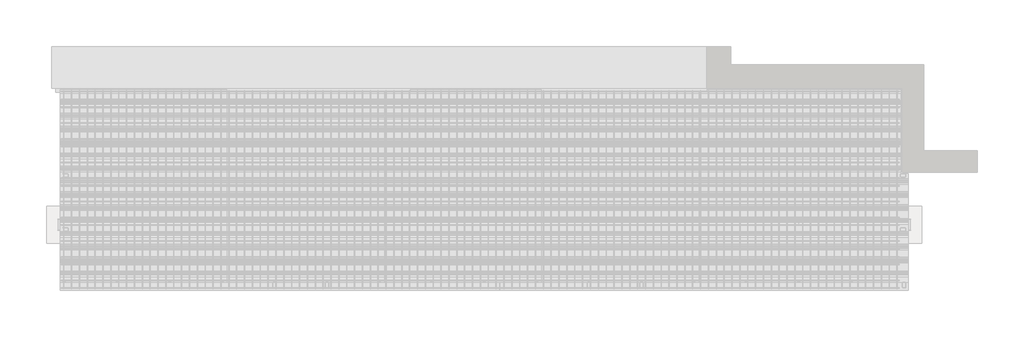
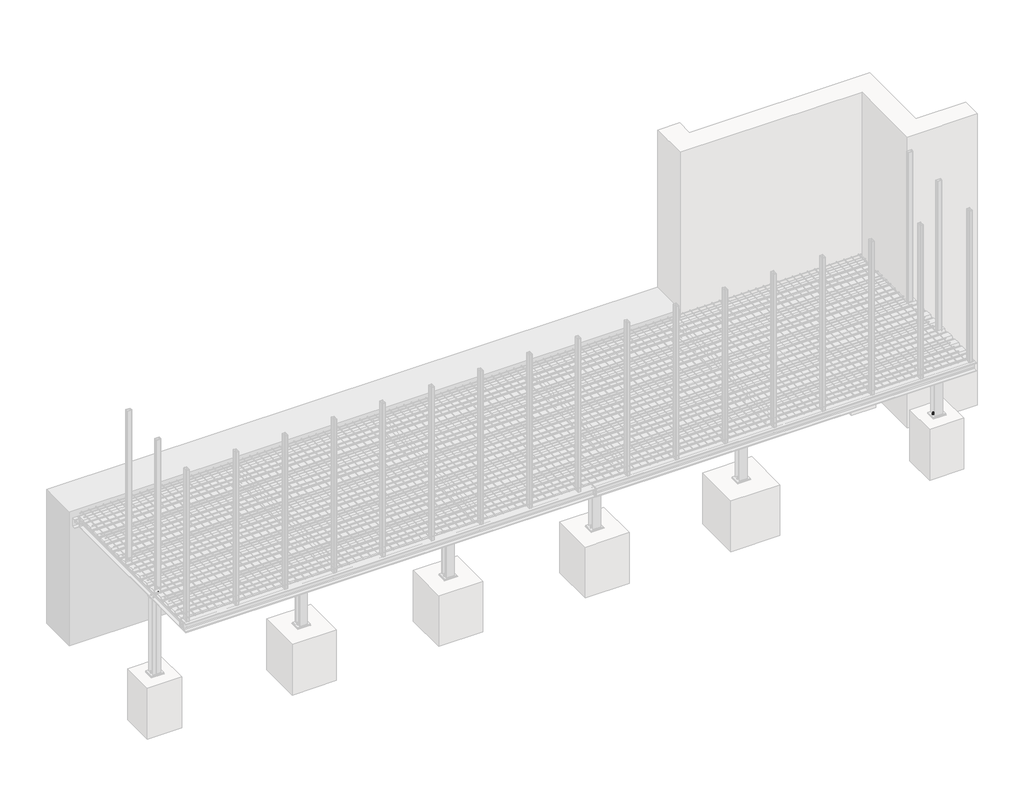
# One storey, part 19 of 36: 12 assemblies, 4 proxies.
"""IFC4 building model written with IfcOpenShell, lengths in millimetres."""

import ifcopenshell
import ifcopenshell.guid

model = None  # the IFC model being written
_history = None  # IfcOwnerHistory: only IFC2X3 demands one
_inside = {}  # id of a spatial element -> (the spatial element, [elements in it])
_under = {}  # id of a project, library or spatial element -> (it, [spatial elements below it])
_declared = {}  # id of a project -> (the project, [libraries it declares])
_typed = {}  # id of a type object -> (the type object, [elements of that type])
_made_of = {}  # id of a material, layer set ... -> (it, [elements and type objects made of it])


def new_model(schema):
    """Start an empty IFC model of exactly this schema.

    Asked for "IFC4X3", IfcOpenShell would pick the latest addendum, in which some entities
    have other attributes; the version numbers below select the first issue.
    IFC2X3 requires an IfcOwnerHistory on every rooted entity: one is made here for all.
    """
    global model, _history
    if schema == "IFC4X3":
        model = ifcopenshell.file(schema_version=(4, 3, 0, 0))
    else:
        model = ifcopenshell.file(schema=schema)
    _inside.clear()
    _under.clear()
    _declared.clear()
    _typed.clear()
    _made_of.clear()
    _history = None
    if model.schema == "IFC2X3":
        org = make("IfcOrganization", Name="unknown")
        user = make(
            "IfcPersonAndOrganization",
            ThePerson=make("IfcPerson", FamilyName="unknown"),
            TheOrganization=org,
        )
        app = make(
            "IfcApplication",
            ApplicationDeveloper=org,
            Version="unknown",
            ApplicationFullName="unknown",
            ApplicationIdentifier="unknown",
        )
        _history = make(
            "IfcOwnerHistory",
            OwningUser=user,
            OwningApplication=app,
            ChangeAction="ADDED",
            CreationDate=0,
        )
    return model


def make(cls, **values):
    """One entity of the class cls with the attributes given. An attribute that is None is left unset."""
    return model.create_entity(
        cls, **{name: value for name, value in values.items() if value is not None}
    )


def rooted(cls, **values):
    """An entity with a GlobalId (a new one), such as an element, a storey or a relation."""
    return make(cls, GlobalId=ifcopenshell.guid.new(), OwnerHistory=_history, **values)


def si_unit(unit_type, name, prefix=None):
    """IfcSIUnit, for example si_unit("LENGTHUNIT", "METRE", prefix="MILLI")."""
    return make("IfcSIUnit", UnitType=unit_type, Prefix=prefix, Name=name)


def assignment(units):
    """IfcUnitAssignment: the units of a project."""
    return None if units is None else make("IfcUnitAssignment", Units=units)


def point(xyz):
    """IfcCartesianPoint."""
    return None if xyz is None else make("IfcCartesianPoint", Coordinates=xyz)


def direction(xyz):
    """IfcDirection."""
    return None if xyz is None else make("IfcDirection", DirectionRatios=xyz)


def frame(location, z_axis=None, x_axis=None):
    """IfcAxis2Placement3D, a coordinate frame: its origin and axes. An axis left out is left unset."""
    return make(
        "IfcAxis2Placement3D",
        Location=point(location),
        Axis=direction(z_axis),
        RefDirection=direction(x_axis),
    )


def frame_2d(location, x_axis=None):
    """IfcAxis2Placement2D, a coordinate frame in the plane: its origin and x axis."""
    return make(
        "IfcAxis2Placement2D", Location=point(location), RefDirection=direction(x_axis)
    )


def origin():
    """The frame at (0, 0, 0) with its axes left unset."""
    return frame((0.0, 0.0, 0.0))


def place(relative_to, where):
    """IfcLocalPlacement: puts the frame where relative to a parent placement (None: the world)."""
    return make(
        "IfcLocalPlacement", PlacementRelTo=relative_to, RelativePlacement=where
    )


def context(
    kind, dimensions, precision=None, world=None, true_north=None, identifier=None
):
    """IfcGeometricRepresentationContext, for example the 3D "Model" context."""
    return make(
        "IfcGeometricRepresentationContext",
        ContextIdentifier=identifier,
        ContextType=kind,
        CoordinateSpaceDimension=dimensions,
        Precision=precision,
        WorldCoordinateSystem=world,
        TrueNorth=true_north,
    )


def project(units=None, contexts=None):
    """IfcProject with its units and contexts."""
    return rooted(
        "IfcProject",
        Name="project",
        RepresentationContexts=contexts,
        UnitsInContext=assignment(units),
    )


def spatial(cls, under=None, at=None, **own):
    """A site, building, storey or space (cls), placed at a placement, below another one or the project."""
    s = rooted(cls, ObjectPlacement=at, **own)
    if under is not None:
        _under.setdefault(under.id(), (under, []))[1].append(s)
    return s


def polyline(points):
    """IfcPolyline through the points."""
    return make("IfcPolyline", Points=[point(p) for p in points])


def circle_curve(where, radius):
    """IfcCircle in the frame where."""
    return make("IfcCircle", Position=where, Radius=radius)


def trimmed(basis, trim1, trim2, sense, master):
    """IfcTrimmedCurve: the piece of a basis curve between two trims."""
    return make(
        "IfcTrimmedCurve",
        BasisCurve=basis,
        Trim1=trim1,
        Trim2=trim2,
        SenseAgreement=sense,
        MasterRepresentation=master,
    )


def segment(curve, same_sense, transition):
    """IfcCompositeCurveSegment."""
    return make(
        "IfcCompositeCurveSegment",
        Transition=transition,
        SameSense=same_sense,
        ParentCurve=curve,
    )


def composite_curve(segments, self_intersect=None):
    """IfcCompositeCurve: segments joined end to end."""
    return make("IfcCompositeCurve", Segments=segments, SelfIntersect=self_intersect)


def outline(outer, holes=None, kind="AREA"):
    """IfcArbitraryClosedProfileDef: a profile drawn as a closed curve; with holes, ...WithVoids."""
    if holes is None:
        return make("IfcArbitraryClosedProfileDef", ProfileType=kind, OuterCurve=outer)
    return make(
        "IfcArbitraryProfileDefWithVoids",
        ProfileType=kind,
        OuterCurve=outer,
        InnerCurves=holes,
    )


def extrude(swept, where, along, depth):
    """IfcExtrudedAreaSolid: the profile swept, set in the frame where, extruded along a direction by depth."""
    return make(
        "IfcExtrudedAreaSolid",
        SweptArea=swept,
        Position=where,
        ExtrudedDirection=direction(along),
        Depth=depth,
    )


def faces_of(points, faces, orient=None, outer=None):
    """IfcFace entities. A face is a list of loops; a loop is a list of indices into points, from 0.

    orient and outer hold one flag for each loop. By default every Orientation is true, the
    first loop of a face is its IfcFaceOuterBound and the others are IfcFaceBound.
    """
    made = []
    for i, loops in enumerate(faces):
        bounds = []
        for j, loop in enumerate(loops):
            is_outer = j == 0 if outer is None else outer[i][j]
            bounds.append(
                make(
                    "IfcFaceOuterBound" if is_outer else "IfcFaceBound",
                    Bound=make("IfcPolyLoop", Polygon=[points[k] for k in loop]),
                    Orientation=True if orient is None else orient[i][j],
                )
            )
        made.append(make("IfcFace", Bounds=bounds))
    return made


def faceted_brep(points, faces, orient=None, outer=None, voids=None):
    """IfcFacetedBrep: a solid bounded by flat faces; with voids (closed shells), ...WithVoids."""
    shared = [point(p) for p in points]
    hull = make("IfcClosedShell", CfsFaces=faces_of(shared, faces, orient, outer))
    if voids is None:
        return make("IfcFacetedBrep", Outer=hull)
    return make(
        "IfcFacetedBrepWithVoids",
        Outer=hull,
        Voids=[
            make(cls, CfsFaces=faces_of(shared, fs, o, b)) for cls, fs, o, b in voids
        ],
    )


def shape(context_of_items, identifier, shape_type, items):
    """IfcShapeRepresentation: the items that make up one representation, for example the "Body"."""
    return make(
        "IfcShapeRepresentation",
        ContextOfItems=context_of_items,
        RepresentationIdentifier=identifier,
        RepresentationType=shape_type,
        Items=items,
    )


def made_of(thing, what):
    """Note that an element or type object is made of a material, layer set ...; save() writes the relation."""
    if what is not None:
        _made_of.setdefault(what.id(), (what, []))[1].append(thing)
    return thing


def element(
    cls,
    number,
    at=None,
    inside=None,
    cuts=None,
    type_object=None,
    material=None,
    context=None,
    identifier="Body",
    shape_type=None,
    held_by="IfcProductDefinitionShape",
    body=None,
    shapes=None,
    **own,
):
    """One element of the class cls, such as IfcWall. Its Tag is "e" and its number.

    at: its placement. inside: the storey or other place that contains it. cuts: it is an
    opening in that element (IfcRelVoidsElement). A single representation is given by context,
    identifier, shape_type and body (its items); several are given by shapes. held_by: the class
    of the entity that holds the representations. save() writes the other relations.
    """
    e = rooted(cls, Tag="e%d" % number, ObjectPlacement=at, **own)
    if body is not None:
        shapes = [shape(context, identifier, shape_type, body)]
    if shapes is not None:
        e.Representation = make(held_by, Representations=shapes)
    if inside is not None:
        _inside.setdefault(inside.id(), (inside, []))[1].append(e)
    if cuts is not None:
        rooted(
            "IfcRelVoidsElement", RelatingBuildingElement=cuts, RelatedOpeningElement=e
        )
    if type_object is not None:
        _typed.setdefault(type_object.id(), (type_object, []))[1].append(e)
    return made_of(e, material)


def aggregate(whole, parts):
    """IfcRelAggregates: a whole, such as a stair, and the parts it consists of."""
    return rooted("IfcRelAggregates", RelatingObject=whole, RelatedObjects=parts)


def save(model, path):
    """Write the relations noted so far, then the file.

    IfcRelAggregates (storeys below a building ...), IfcRelContainedInSpatialStructure (elements
    in a storey), IfcRelDefinesByType, IfcRelAssociatesMaterial and IfcRelDeclares: one each for
    every whole, place, type object, material and project.
    """
    for whole, parts in _under.values():
        aggregate(whole, parts)
    for where, things in _inside.values():
        rooted(
            "IfcRelContainedInSpatialStructure",
            RelatedElements=things,
            RelatingStructure=where,
        )
    for kind, things in _typed.values():
        rooted("IfcRelDefinesByType", RelatedObjects=things, RelatingType=kind)
    for what, things in _made_of.values():
        rooted("IfcRelAssociatesMaterial", RelatedObjects=things, RelatingMaterial=what)
    for by, libraries in _declared.values():
        rooted("IfcRelDeclares", RelatingContext=by, RelatedDefinitions=libraries)
    model.write(path)


model = new_model("IFC4")

# Units and contexts
model_context = context("Model", 3, world=origin())
ifc_project = project(units=[si_unit("LENGTHUNIT", "METRE", prefix="MILLI")], contexts=[model_context])

# Site, building, storey
site = spatial("IfcSite", under=ifc_project)
building = spatial("IfcBuilding", under=site)
storey = spatial("IfcBuildingStorey", under=building, Name="Základy", Elevation=-1200.0)

# Proxies
placement = place(None, origin())
element("IfcBuildingElementProxy", 1, Name="PLECH", ObjectType="PLECH", at=placement, inside=storey, context=model_context, shape_type="SweptSolid", body=[
    extrude(outline(polyline([(16140.0, 1346.0), (16140.0, 1174.0), (15960.0, 1174.0), (15960.0, 1346.0), (16140.0, 1346.0)])), frame((0.0, 0.0, -350.0), z_axis=(0.0, 0.0, 1.0), x_axis=(1.0, 0.0, 0.0)), (0.0, 0.0, 1.0), 10.0),
])
element("IfcBuildingElementProxy", 2, Name="PLECH", ObjectType="PLECH", at=placement, inside=storey, context=model_context, shape_type="SweptSolid", body=[
    extrude(outline(composite_curve([segment(polyline([(-174.0, 15960.0), (-326.0, 15960.0), (-326.0, 16020.5)]), True, "CONTINUOUS"), segment(trimmed(circle_curve(frame_2d((-326.0, 16045.5)), 25.0), [point((-326.0, 16020.5))], [point((-301.0, 16045.5))], True, "CARTESIAN"), True, "CONTINUOUS"), segment(polyline([(-301.0, 16045.5), (-199.0, 16045.5)]), True, "CONTINUOUS"), segment(trimmed(circle_curve(frame_2d((-174.0, 16045.5)), 25.0), [point((-199.0, 16045.5))], [point((-174.0, 16020.5))], True, "CARTESIAN"), True, "CONTINUOUS"), segment(polyline([(-174.0, 16020.5), (-174.0, 15960.0)]), True, "CONTINUOUS")], self_intersect=False)), frame((0.0, 1256.0, 0.0), z_axis=(0.0, 1.0, 0.0), x_axis=(0.0, 0.0, 1.0)), (0.0, 0.0, 1.0), 8.0),
])
element("IfcBuildingElementProxy", 3, Name="Bolt assembly", ObjectType="Bolt assembly", at=placement, inside=storey, context=model_context, shape_type="SweptSolid", body=[
    extrude(outline(polyline([(15982.7364934, 1260.0), (15978.8682467, 1253.3000002), (15971.1317533, 1253.3000002), (15967.2635066, 1260.0), (15971.1317533, 1266.6999998), (15978.8682467, 1266.6999998), (15982.7364934, 1260.0)])), frame((0.0, 0.0, -2122.0), z_axis=(0.0, 0.0, 1.0), x_axis=(1.0, 0.0, 0.0)), (0.0, 0.0, 1.0), 132.0),
    extrude(outline(composite_curve([segment(trimmed(circle_curve(frame_2d((15975.0, 1260.0)), 8.0), [point((15983.0, 1260.0))], [point((15967.0, 1260.0))], False, "CARTESIAN"), True, "CONTINUOUS"), segment(trimmed(circle_curve(frame_2d((15975.0, 1260.0)), 8.0), [point((15967.0, 1260.0))], [point((15983.0, 1260.0))], False, "CARTESIAN"), True, "CONTINUOUS")], self_intersect=False)), frame((0.0, 0.0, -1990.0), z_axis=(0.0, 0.0, 1.0), x_axis=(1.0, 0.0, 0.0)), (0.0, 0.0, 1.0), 58.0),
    extrude(outline(composite_curve([segment(trimmed(circle_curve(frame_2d((15975.0, 1260.0)), 15.0), [point((15990.0, 1260.0))], [point((15960.0, 1260.0))], False, "CARTESIAN"), True, "CONTINUOUS"), segment(trimmed(circle_curve(frame_2d((15975.0, 1260.0)), 15.0), [point((15960.0, 1260.0))], [point((15990.0, 1260.0))], False, "CARTESIAN"), True, "CONTINUOUS")], self_intersect=False)), frame((0.0, 0.0, -1975.0), z_axis=(0.0, 0.0, 1.0), x_axis=(1.0, 0.0, 0.0)), (0.0, 0.0, 1.0), 3.0),
    extrude(outline(polyline([(15990.4441197, 1260.0), (15982.7220599, 1246.625), (15967.2779401, 1246.625), (15959.5558803, 1260.0), (15967.2779401, 1273.375), (15982.7220599, 1273.375), (15990.4441197, 1260.0)])), frame((0.0, 0.0, -1972.0), z_axis=(0.0, 0.0, 1.0), x_axis=(1.0, 0.0, 0.0)), (0.0, 0.0, 1.0), 13.0),
    extrude(outline(composite_curve([segment(trimmed(circle_curve(frame_2d((15975.0, 1260.0)), 9.0), [point((15984.0, 1260.0))], [point((15966.0, 1260.0))], False, "CARTESIAN"), True, "CONTINUOUS"), segment(trimmed(circle_curve(frame_2d((15975.0, 1260.0)), 9.0), [point((15966.0, 1260.0))], [point((15984.0, 1260.0))], False, "CARTESIAN"), True, "CONTINUOUS")], self_intersect=False)), frame((0.0, 0.0, -1990.0), z_axis=(0.0, 0.0, 1.0), x_axis=(1.0, 0.0, 0.0)), (0.0, 0.0, 1.0), 15.1),
    extrude(outline(polyline([(16132.7364934, 1260.0), (16128.8682467, 1253.3000002), (16121.1317533, 1253.3000002), (16117.2635066, 1260.0), (16121.1317533, 1266.6999998), (16128.8682467, 1266.6999998), (16132.7364934, 1260.0)])), frame((0.0, 0.0, -2122.0), z_axis=(0.0, 0.0, 1.0), x_axis=(1.0, 0.0, 0.0)), (0.0, 0.0, 1.0), 132.0),
    extrude(outline(composite_curve([segment(trimmed(circle_curve(frame_2d((16125.0, 1260.0)), 8.0), [point((16133.0, 1260.0))], [point((16117.0, 1260.0))], False, "CARTESIAN"), True, "CONTINUOUS"), segment(trimmed(circle_curve(frame_2d((16125.0, 1260.0)), 8.0), [point((16117.0, 1260.0))], [point((16133.0, 1260.0))], False, "CARTESIAN"), True, "CONTINUOUS")], self_intersect=False)), frame((0.0, 0.0, -1990.0), z_axis=(0.0, 0.0, 1.0), x_axis=(1.0, 0.0, 0.0)), (0.0, 0.0, 1.0), 58.0),
    extrude(outline(composite_curve([segment(trimmed(circle_curve(frame_2d((16125.0, 1260.0)), 15.0), [point((16140.0, 1260.0))], [point((16110.0, 1260.0))], False, "CARTESIAN"), True, "CONTINUOUS"), segment(trimmed(circle_curve(frame_2d((16125.0, 1260.0)), 15.0), [point((16110.0, 1260.0))], [point((16140.0, 1260.0))], False, "CARTESIAN"), True, "CONTINUOUS")], self_intersect=False)), frame((0.0, 0.0, -1975.0), z_axis=(0.0, 0.0, 1.0), x_axis=(1.0, 0.0, 0.0)), (0.0, 0.0, 1.0), 3.0),
    extrude(outline(polyline([(16140.4441197, 1260.0), (16132.7220599, 1246.625), (16117.2779401, 1246.625), (16109.5558803, 1260.0), (16117.2779401, 1273.375), (16132.7220599, 1273.375), (16140.4441197, 1260.0)])), frame((0.0, 0.0, -1972.0), z_axis=(0.0, 0.0, 1.0), x_axis=(1.0, 0.0, 0.0)), (0.0, 0.0, 1.0), 13.0),
    extrude(outline(composite_curve([segment(trimmed(circle_curve(frame_2d((16125.0, 1260.0)), 9.0), [point((16134.0, 1260.0))], [point((16116.0, 1260.0))], False, "CARTESIAN"), True, "CONTINUOUS"), segment(trimmed(circle_curve(frame_2d((16125.0, 1260.0)), 9.0), [point((16116.0, 1260.0))], [point((16134.0, 1260.0))], False, "CARTESIAN"), True, "CONTINUOUS")], self_intersect=False)), frame((0.0, 0.0, -1990.0), z_axis=(0.0, 0.0, 1.0), x_axis=(1.0, 0.0, 0.0)), (0.0, 0.0, 1.0), 15.1),
])
element("IfcBuildingElementProxy", 4, Name="Bolt assembly", ObjectType="Bolt assembly", at=placement, inside=storey, context=model_context, shape_type="SweptSolid", body=[
    extrude(outline(composite_curve([segment(trimmed(circle_curve(frame_2d((16000.0, 1220.0)), 6.5), [point((16006.5, 1220.0))], [point((15993.5, 1220.0))], False, "CARTESIAN"), True, "CONTINUOUS"), segment(trimmed(circle_curve(frame_2d((16000.0, 1220.0)), 6.5), [point((15993.5, 1220.0))], [point((16006.5, 1220.0))], False, "CARTESIAN"), True, "CONTINUOUS")], self_intersect=False)), frame((0.0, 0.0, -350.0), z_axis=(0.0, 0.0, 1.0), x_axis=(1.0, 0.0, 0.0)), (0.0, 0.0, 1.0), 10.1),
    extrude(outline(polyline([(16010.3923048, 1220.0), (16005.1961524, 1211.0), (15994.8038476, 1211.0), (15989.6076952, 1220.0), (15994.8038476, 1229.0), (16005.1961524, 1229.0), (16010.3923048, 1220.0)])), frame((0.0, 0.0, -323.5), z_axis=(0.0, 0.0, 1.0), x_axis=(1.0, 0.0, 0.0)), (0.0, 0.0, 1.0), 7.5),
    extrude(outline(composite_curve([segment(trimmed(circle_curve(frame_2d((16000.0, 1220.0)), 6.0), [point((16006.0, 1220.0))], [point((15994.0, 1220.0))], False, "CARTESIAN"), True, "CONTINUOUS"), segment(trimmed(circle_curve(frame_2d((16000.0, 1220.0)), 6.0), [point((15994.0, 1220.0))], [point((16006.0, 1220.0))], False, "CARTESIAN"), True, "CONTINUOUS")], self_intersect=False)), frame((0.0, 0.0, -368.5), z_axis=(0.0, 0.0, 1.0), x_axis=(1.0, 0.0, 0.0)), (0.0, 0.0, 1.0), 45.0),
    extrude(outline(composite_curve([segment(trimmed(circle_curve(frame_2d((16000.0, 1220.0)), 12.0), [point((16012.0, 1220.0))], [point((15988.0, 1220.0))], False, "CARTESIAN"), True, "CONTINUOUS"), segment(trimmed(circle_curve(frame_2d((16000.0, 1220.0)), 12.0), [point((15988.0, 1220.0))], [point((16012.0, 1220.0))], False, "CARTESIAN"), True, "CONTINUOUS")], self_intersect=False)), frame((0.0, 0.0, -326.0), z_axis=(0.0, 0.0, 1.0), x_axis=(1.0, 0.0, 0.0)), (0.0, 0.0, 1.0), 2.5),
    extrude(outline(composite_curve([segment(trimmed(circle_curve(frame_2d((16000.0, 1220.0)), 12.0), [point((16012.0, 1220.0))], [point((15988.0, 1220.0))], False, "CARTESIAN"), True, "CONTINUOUS"), segment(trimmed(circle_curve(frame_2d((16000.0, 1220.0)), 12.0), [point((15988.0, 1220.0))], [point((16012.0, 1220.0))], False, "CARTESIAN"), True, "CONTINUOUS")], self_intersect=False)), frame((0.0, 0.0, -352.5), z_axis=(0.0, 0.0, 1.0), x_axis=(1.0, 0.0, 0.0)), (0.0, 0.0, 1.0), 2.5),
    extrude(outline(polyline([(16010.9696551, 1220.0), (16005.4848276, 1210.5), (15994.5151724, 1210.5), (15989.0303449, 1220.0), (15994.5151724, 1229.5), (16005.4848276, 1229.5), (16010.9696551, 1220.0)])), frame((0.0, 0.0, -362.5), z_axis=(0.0, 0.0, 1.0), x_axis=(1.0, 0.0, 0.0)), (0.0, 0.0, 1.0), 10.0),
    extrude(outline(composite_curve([segment(trimmed(circle_curve(frame_2d((16000.0, 1220.0)), 6.5), [point((16006.5, 1220.0))], [point((15993.5, 1220.0))], False, "CARTESIAN"), True, "CONTINUOUS"), segment(trimmed(circle_curve(frame_2d((16000.0, 1220.0)), 6.5), [point((15993.5, 1220.0))], [point((16006.5, 1220.0))], False, "CARTESIAN"), True, "CONTINUOUS")], self_intersect=False)), frame((0.0, 0.0, -340.1), z_axis=(0.0, 0.0, 1.0), x_axis=(1.0, 0.0, 0.0)), (0.0, 0.0, 1.0), 14.0),
    extrude(outline(composite_curve([segment(trimmed(circle_curve(frame_2d((16100.0, 1220.0)), 6.5), [point((16106.5, 1220.0))], [point((16093.5, 1220.0))], False, "CARTESIAN"), True, "CONTINUOUS"), segment(trimmed(circle_curve(frame_2d((16100.0, 1220.0)), 6.5), [point((16093.5, 1220.0))], [point((16106.5, 1220.0))], False, "CARTESIAN"), True, "CONTINUOUS")], self_intersect=False)), frame((0.0, 0.0, -350.0), z_axis=(0.0, 0.0, 1.0), x_axis=(1.0, 0.0, 0.0)), (0.0, 0.0, 1.0), 10.1),
    extrude(outline(polyline([(16110.3923048, 1220.0), (16105.1961524, 1211.0), (16094.8038476, 1211.0), (16089.6076952, 1220.0), (16094.8038476, 1229.0), (16105.1961524, 1229.0), (16110.3923048, 1220.0)])), frame((0.0, 0.0, -323.5), z_axis=(0.0, 0.0, 1.0), x_axis=(1.0, 0.0, 0.0)), (0.0, 0.0, 1.0), 7.5),
    extrude(outline(composite_curve([segment(trimmed(circle_curve(frame_2d((16100.0, 1220.0)), 6.0), [point((16106.0, 1220.0))], [point((16094.0, 1220.0))], False, "CARTESIAN"), True, "CONTINUOUS"), segment(trimmed(circle_curve(frame_2d((16100.0, 1220.0)), 6.0), [point((16094.0, 1220.0))], [point((16106.0, 1220.0))], False, "CARTESIAN"), True, "CONTINUOUS")], self_intersect=False)), frame((0.0, 0.0, -368.5), z_axis=(0.0, 0.0, 1.0), x_axis=(1.0, 0.0, 0.0)), (0.0, 0.0, 1.0), 45.0),
    extrude(outline(composite_curve([segment(trimmed(circle_curve(frame_2d((16100.0, 1220.0)), 12.0), [point((16112.0, 1220.0))], [point((16088.0, 1220.0))], False, "CARTESIAN"), True, "CONTINUOUS"), segment(trimmed(circle_curve(frame_2d((16100.0, 1220.0)), 12.0), [point((16088.0, 1220.0))], [point((16112.0, 1220.0))], False, "CARTESIAN"), True, "CONTINUOUS")], self_intersect=False)), frame((0.0, 0.0, -326.0), z_axis=(0.0, 0.0, 1.0), x_axis=(1.0, 0.0, 0.0)), (0.0, 0.0, 1.0), 2.5),
    extrude(outline(composite_curve([segment(trimmed(circle_curve(frame_2d((16100.0, 1220.0)), 12.0), [point((16112.0, 1220.0))], [point((16088.0, 1220.0))], False, "CARTESIAN"), True, "CONTINUOUS"), segment(trimmed(circle_curve(frame_2d((16100.0, 1220.0)), 12.0), [point((16088.0, 1220.0))], [point((16112.0, 1220.0))], False, "CARTESIAN"), True, "CONTINUOUS")], self_intersect=False)), frame((0.0, 0.0, -352.5), z_axis=(0.0, 0.0, 1.0), x_axis=(1.0, 0.0, 0.0)), (0.0, 0.0, 1.0), 2.5),
    extrude(outline(polyline([(16110.9696551, 1220.0), (16105.4848276, 1210.5), (16094.5151724, 1210.5), (16089.0303449, 1220.0), (16094.5151724, 1229.5), (16105.4848276, 1229.5), (16110.9696551, 1220.0)])), frame((0.0, 0.0, -362.5), z_axis=(0.0, 0.0, 1.0), x_axis=(1.0, 0.0, 0.0)), (0.0, 0.0, 1.0), 10.0),
    extrude(outline(composite_curve([segment(trimmed(circle_curve(frame_2d((16100.0, 1220.0)), 6.5), [point((16106.5, 1220.0))], [point((16093.5, 1220.0))], False, "CARTESIAN"), True, "CONTINUOUS"), segment(trimmed(circle_curve(frame_2d((16100.0, 1220.0)), 6.5), [point((16093.5, 1220.0))], [point((16106.5, 1220.0))], False, "CARTESIAN"), True, "CONTINUOUS")], self_intersect=False)), frame((0.0, 0.0, -340.1), z_axis=(0.0, 0.0, 1.0), x_axis=(1.0, 0.0, 0.0)), (0.0, 0.0, 1.0), 14.0),
    extrude(outline(composite_curve([segment(trimmed(circle_curve(frame_2d((16000.0, 1300.0)), 6.5), [point((16006.5, 1300.0))], [point((15993.5, 1300.0))], False, "CARTESIAN"), True, "CONTINUOUS"), segment(trimmed(circle_curve(frame_2d((16000.0, 1300.0)), 6.5), [point((15993.5, 1300.0))], [point((16006.5, 1300.0))], False, "CARTESIAN"), True, "CONTINUOUS")], self_intersect=False)), frame((0.0, 0.0, -350.0), z_axis=(0.0, 0.0, 1.0), x_axis=(1.0, 0.0, 0.0)), (0.0, 0.0, 1.0), 10.1),
    extrude(outline(polyline([(16010.3923048, 1300.0), (16005.1961524, 1291.0), (15994.8038476, 1291.0), (15989.6076952, 1300.0), (15994.8038476, 1309.0), (16005.1961524, 1309.0), (16010.3923048, 1300.0)])), frame((0.0, 0.0, -323.5), z_axis=(0.0, 0.0, 1.0), x_axis=(1.0, 0.0, 0.0)), (0.0, 0.0, 1.0), 7.5),
    extrude(outline(composite_curve([segment(trimmed(circle_curve(frame_2d((16000.0, 1300.0)), 6.0), [point((16006.0, 1300.0))], [point((15994.0, 1300.0))], False, "CARTESIAN"), True, "CONTINUOUS"), segment(trimmed(circle_curve(frame_2d((16000.0, 1300.0)), 6.0), [point((15994.0, 1300.0))], [point((16006.0, 1300.0))], False, "CARTESIAN"), True, "CONTINUOUS")], self_intersect=False)), frame((0.0, 0.0, -368.5), z_axis=(0.0, 0.0, 1.0), x_axis=(1.0, 0.0, 0.0)), (0.0, 0.0, 1.0), 45.0),
    extrude(outline(composite_curve([segment(trimmed(circle_curve(frame_2d((16000.0, 1300.0)), 12.0), [point((16012.0, 1300.0))], [point((15988.0, 1300.0))], False, "CARTESIAN"), True, "CONTINUOUS"), segment(trimmed(circle_curve(frame_2d((16000.0, 1300.0)), 12.0), [point((15988.0, 1300.0))], [point((16012.0, 1300.0))], False, "CARTESIAN"), True, "CONTINUOUS")], self_intersect=False)), frame((0.0, 0.0, -326.0), z_axis=(0.0, 0.0, 1.0), x_axis=(1.0, 0.0, 0.0)), (0.0, 0.0, 1.0), 2.5),
    extrude(outline(composite_curve([segment(trimmed(circle_curve(frame_2d((16000.0, 1300.0)), 12.0), [point((16012.0, 1300.0))], [point((15988.0, 1300.0))], False, "CARTESIAN"), True, "CONTINUOUS"), segment(trimmed(circle_curve(frame_2d((16000.0, 1300.0)), 12.0), [point((15988.0, 1300.0))], [point((16012.0, 1300.0))], False, "CARTESIAN"), True, "CONTINUOUS")], self_intersect=False)), frame((0.0, 0.0, -352.5), z_axis=(0.0, 0.0, 1.0), x_axis=(1.0, 0.0, 0.0)), (0.0, 0.0, 1.0), 2.5),
    extrude(outline(polyline([(16010.9696551, 1300.0), (16005.4848276, 1290.5), (15994.5151724, 1290.5), (15989.0303449, 1300.0), (15994.5151724, 1309.5), (16005.4848276, 1309.5), (16010.9696551, 1300.0)])), frame((0.0, 0.0, -362.5), z_axis=(0.0, 0.0, 1.0), x_axis=(1.0, 0.0, 0.0)), (0.0, 0.0, 1.0), 10.0),
    extrude(outline(composite_curve([segment(trimmed(circle_curve(frame_2d((16000.0, 1300.0)), 6.5), [point((16006.5, 1300.0))], [point((15993.5, 1300.0))], False, "CARTESIAN"), True, "CONTINUOUS"), segment(trimmed(circle_curve(frame_2d((16000.0, 1300.0)), 6.5), [point((15993.5, 1300.0))], [point((16006.5, 1300.0))], False, "CARTESIAN"), True, "CONTINUOUS")], self_intersect=False)), frame((0.0, 0.0, -340.1), z_axis=(0.0, 0.0, 1.0), x_axis=(1.0, 0.0, 0.0)), (0.0, 0.0, 1.0), 14.0),
    extrude(outline(composite_curve([segment(trimmed(circle_curve(frame_2d((16100.0, 1300.0)), 6.5), [point((16106.5, 1300.0))], [point((16093.5, 1300.0))], False, "CARTESIAN"), True, "CONTINUOUS"), segment(trimmed(circle_curve(frame_2d((16100.0, 1300.0)), 6.5), [point((16093.5, 1300.0))], [point((16106.5, 1300.0))], False, "CARTESIAN"), True, "CONTINUOUS")], self_intersect=False)), frame((0.0, 0.0, -350.0), z_axis=(0.0, 0.0, 1.0), x_axis=(1.0, 0.0, 0.0)), (0.0, 0.0, 1.0), 10.1),
    extrude(outline(polyline([(16110.3923048, 1300.0), (16105.1961524, 1291.0), (16094.8038476, 1291.0), (16089.6076952, 1300.0), (16094.8038476, 1309.0), (16105.1961524, 1309.0), (16110.3923048, 1300.0)])), frame((0.0, 0.0, -323.5), z_axis=(0.0, 0.0, 1.0), x_axis=(1.0, 0.0, 0.0)), (0.0, 0.0, 1.0), 7.5),
    extrude(outline(composite_curve([segment(trimmed(circle_curve(frame_2d((16100.0, 1300.0)), 6.0), [point((16106.0, 1300.0))], [point((16094.0, 1300.0))], False, "CARTESIAN"), True, "CONTINUOUS"), segment(trimmed(circle_curve(frame_2d((16100.0, 1300.0)), 6.0), [point((16094.0, 1300.0))], [point((16106.0, 1300.0))], False, "CARTESIAN"), True, "CONTINUOUS")], self_intersect=False)), frame((0.0, 0.0, -368.5), z_axis=(0.0, 0.0, 1.0), x_axis=(1.0, 0.0, 0.0)), (0.0, 0.0, 1.0), 45.0),
    extrude(outline(composite_curve([segment(trimmed(circle_curve(frame_2d((16100.0, 1300.0)), 12.0), [point((16112.0, 1300.0))], [point((16088.0, 1300.0))], False, "CARTESIAN"), True, "CONTINUOUS"), segment(trimmed(circle_curve(frame_2d((16100.0, 1300.0)), 12.0), [point((16088.0, 1300.0))], [point((16112.0, 1300.0))], False, "CARTESIAN"), True, "CONTINUOUS")], self_intersect=False)), frame((0.0, 0.0, -326.0), z_axis=(0.0, 0.0, 1.0), x_axis=(1.0, 0.0, 0.0)), (0.0, 0.0, 1.0), 2.5),
    extrude(outline(composite_curve([segment(trimmed(circle_curve(frame_2d((16100.0, 1300.0)), 12.0), [point((16112.0, 1300.0))], [point((16088.0, 1300.0))], False, "CARTESIAN"), True, "CONTINUOUS"), segment(trimmed(circle_curve(frame_2d((16100.0, 1300.0)), 12.0), [point((16088.0, 1300.0))], [point((16112.0, 1300.0))], False, "CARTESIAN"), True, "CONTINUOUS")], self_intersect=False)), frame((0.0, 0.0, -352.5), z_axis=(0.0, 0.0, 1.0), x_axis=(1.0, 0.0, 0.0)), (0.0, 0.0, 1.0), 2.5),
    extrude(outline(polyline([(16110.9696551, 1300.0), (16105.4848276, 1290.5), (16094.5151724, 1290.5), (16089.0303449, 1300.0), (16094.5151724, 1309.5), (16105.4848276, 1309.5), (16110.9696551, 1300.0)])), frame((0.0, 0.0, -362.5), z_axis=(0.0, 0.0, 1.0), x_axis=(1.0, 0.0, 0.0)), (0.0, 0.0, 1.0), 10.0),
    extrude(outline(composite_curve([segment(trimmed(circle_curve(frame_2d((16100.0, 1300.0)), 6.5), [point((16106.5, 1300.0))], [point((16093.5, 1300.0))], False, "CARTESIAN"), True, "CONTINUOUS"), segment(trimmed(circle_curve(frame_2d((16100.0, 1300.0)), 6.5), [point((16093.5, 1300.0))], [point((16106.5, 1300.0))], False, "CARTESIAN"), True, "CONTINUOUS")], self_intersect=False)), frame((0.0, 0.0, -340.1), z_axis=(0.0, 0.0, 1.0), x_axis=(1.0, 0.0, 0.0)), (0.0, 0.0, 1.0), 14.0),
])

# Assemblies
element("IfcElementAssembly", 5, at=placement, inside=storey, context=model_context, shape_type="SweptSolid", body=[
    extrude(outline(composite_curve([segment(polyline([(10.0, 1146.4), (10.0, 1193.6)]), True, "CONTINUOUS"), segment(trimmed(circle_curve(frame_2d((16.4, 1193.6)), 6.4), [point((10.0, 1193.6))], [point((16.4, 1200.0))], False, "CARTESIAN"), True, "CONTINUOUS"), segment(polyline([(16.4, 1200.0), (103.6, 1200.0)]), True, "CONTINUOUS"), segment(trimmed(circle_curve(frame_2d((103.6, 1193.6)), 6.4), [point((103.6, 1200.0))], [point((110.0, 1193.6))], False, "CARTESIAN"), True, "CONTINUOUS"), segment(polyline([(110.0, 1193.6), (110.0, 1146.4)]), True, "CONTINUOUS"), segment(trimmed(circle_curve(frame_2d((103.6, 1146.4)), 6.4), [point((110.0, 1146.4))], [point((103.6, 1140.0))], False, "CARTESIAN"), True, "CONTINUOUS"), segment(polyline([(103.6, 1140.0), (16.4, 1140.0)]), True, "CONTINUOUS"), segment(trimmed(circle_curve(frame_2d((16.4, 1146.4)), 6.4), [point((16.4, 1140.0))], [point((10.0, 1146.4))], False, "CARTESIAN"), True, "CONTINUOUS")], self_intersect=False), holes=[composite_curve([segment(trimmed(circle_curve(frame_2d((16.4, 1146.4)), 3.2), [point((13.2, 1146.4))], [point((16.4, 1143.2))], True, "CARTESIAN"), True, "CONTINUOUS"), segment(polyline([(16.4, 1143.2), (103.6, 1143.2)]), True, "CONTINUOUS"), segment(trimmed(circle_curve(frame_2d((103.6, 1146.4)), 3.2), [point((103.6, 1143.2))], [point((106.8, 1146.4))], True, "CARTESIAN"), True, "CONTINUOUS"), segment(polyline([(106.8, 1146.4), (106.8, 1193.6)]), True, "CONTINUOUS"), segment(trimmed(circle_curve(frame_2d((103.6, 1193.6)), 3.2), [point((106.8, 1193.6))], [point((103.6, 1196.8))], True, "CARTESIAN"), True, "CONTINUOUS"), segment(polyline([(103.6, 1196.8), (16.4, 1196.8)]), True, "CONTINUOUS"), segment(trimmed(circle_curve(frame_2d((16.4, 1193.6)), 3.2), [point((16.4, 1196.8))], [point((13.2, 1193.6))], True, "CARTESIAN"), True, "CONTINUOUS"), segment(polyline([(13.2, 1193.6), (13.2, 1146.4)]), True, "CONTINUOUS")], self_intersect=False)]), frame((0.0, 0.0, -160.0), z_axis=(0.0, 0.0, 1.0), x_axis=(1.0, 0.0, 0.0)), (0.0, 0.0, 1.0), 3280.0),
])
element("IfcElementAssembly", 6, at=placement, inside=storey, context=model_context, shape_type="SweptSolid", body=[
    extrude(outline(polyline([(400.0, 1610.0), (400.0, 910.0), (-300.0, 910.0), (-300.0, 1610.0), (400.0, 1610.0)])), frame((0.0, 0.0, -3100.0), z_axis=(0.0, 0.0, 1.0), x_axis=(1.0, 0.0, 0.0)), (0.0, 0.0, 1.0), 1100.0),
])
element("IfcElementAssembly", 7, at=placement, inside=storey, context=model_context, shape_type="SweptSolid", body=[
    extrude(outline(polyline([(802.7875602, -160.0099992), (772.2875602, -111.5000008), (637.6975638, -111.5000008), (607.1975638, -160.0000008), (552.7875754, -160.0000008), (522.2875754, -111.5000008), (387.6975715, -111.5000008), (357.1975715, -160.0000008), (302.7875697, -160.0000008), (272.2875716, -111.5000008), (160.0, -111.5000008), (160.0, -110.7500008), (272.6975715, -110.7500008), (303.1975695, -159.2500008), (356.7875716, -159.2500008), (387.2875678, -110.7500008), (522.6975638, -110.7500008), (553.1975638, -159.2500008), (606.7875602, -159.2500008), (637.2875602, -110.7500008), (772.6975638, -110.7500008), (803.1975638, -159.2500008), (839.9975821, -160.0000008), (802.7875602, -160.0099992)])), frame((-40.0, 0.0, 0.0), z_axis=(1.0, 0.0, 0.0), x_axis=(0.0, 1.0, 0.0)), (0.0, 0.0, 1.0), 3180.0),
])
element("IfcElementAssembly", 8, at=placement, inside=storey, context=model_context, shape_type="SweptSolid", body=[
    extrude(outline(composite_curve([segment(polyline([(1073.6, 60.0), (1026.4, 60.0)]), True, "CONTINUOUS"), segment(trimmed(circle_curve(frame_2d((1026.4, 66.4)), 6.4), [point((1026.4, 60.0))], [point((1020.0, 66.4))], False, "CARTESIAN"), True, "CONTINUOUS"), segment(polyline([(1020.0, 66.4), (1020.0, 153.6)]), True, "CONTINUOUS"), segment(trimmed(circle_curve(frame_2d((1026.4, 153.6)), 6.4), [point((1020.0, 153.6))], [point((1026.4, 160.0))], False, "CARTESIAN"), True, "CONTINUOUS"), segment(polyline([(1026.4, 160.0), (1073.6, 160.0)]), True, "CONTINUOUS"), segment(trimmed(circle_curve(frame_2d((1073.6, 153.6)), 6.4), [point((1073.6, 160.0))], [point((1080.0, 153.6))], False, "CARTESIAN"), True, "CONTINUOUS"), segment(polyline([(1080.0, 153.6), (1080.0, 66.4)]), True, "CONTINUOUS"), segment(trimmed(circle_curve(frame_2d((1073.6, 66.4)), 6.4), [point((1080.0, 66.4))], [point((1073.6, 60.0))], False, "CARTESIAN"), True, "CONTINUOUS")], self_intersect=False), holes=[composite_curve([segment(trimmed(circle_curve(frame_2d((1073.6, 66.4)), 3.2), [point((1073.6, 63.2))], [point((1076.8, 66.4))], True, "CARTESIAN"), True, "CONTINUOUS"), segment(polyline([(1076.8, 66.4), (1076.8, 153.6)]), True, "CONTINUOUS"), segment(trimmed(circle_curve(frame_2d((1073.6, 153.6)), 3.2), [point((1076.8, 153.6))], [point((1073.6, 156.8))], True, "CARTESIAN"), True, "CONTINUOUS"), segment(polyline([(1073.6, 156.8), (1026.4, 156.8)]), True, "CONTINUOUS"), segment(trimmed(circle_curve(frame_2d((1026.4, 153.6)), 3.2), [point((1026.4, 156.8))], [point((1023.2, 153.6))], True, "CARTESIAN"), True, "CONTINUOUS"), segment(polyline([(1023.2, 153.6), (1023.2, 66.4)]), True, "CONTINUOUS"), segment(trimmed(circle_curve(frame_2d((1026.4, 66.4)), 3.2), [point((1023.2, 66.4))], [point((1026.4, 63.2))], True, "CARTESIAN"), True, "CONTINUOUS"), segment(polyline([(1026.4, 63.2), (1073.6, 63.2)]), True, "CONTINUOUS")], self_intersect=False)]), frame((0.0, 0.0, -160.0), z_axis=(0.0, 0.0, 1.0), x_axis=(1.0, 0.0, 0.0)), (0.0, 0.0, 1.0), 3320.0),
])
element("IfcElementAssembly", 9, at=placement, inside=storey, context=model_context, shape_type="SweptSolid", body=[
    extrude(outline(composite_curve([segment(polyline([(63.6, 60.0), (16.4, 60.0)]), True, "CONTINUOUS"), segment(trimmed(circle_curve(frame_2d((16.4, 66.4)), 6.4), [point((16.4, 60.0))], [point((10.0, 66.4))], False, "CARTESIAN"), True, "CONTINUOUS"), segment(polyline([(10.0, 66.4), (10.0, 153.6)]), True, "CONTINUOUS"), segment(trimmed(circle_curve(frame_2d((16.4, 153.6)), 6.4), [point((10.0, 153.6))], [point((16.4, 160.0))], False, "CARTESIAN"), True, "CONTINUOUS"), segment(polyline([(16.4, 160.0), (63.6, 160.0)]), True, "CONTINUOUS"), segment(trimmed(circle_curve(frame_2d((63.6, 153.6)), 6.4), [point((63.6, 160.0))], [point((70.0, 153.6))], False, "CARTESIAN"), True, "CONTINUOUS"), segment(polyline([(70.0, 153.6), (70.0, 66.4)]), True, "CONTINUOUS"), segment(trimmed(circle_curve(frame_2d((63.6, 66.4)), 6.4), [point((70.0, 66.4))], [point((63.6, 60.0))], False, "CARTESIAN"), True, "CONTINUOUS")], self_intersect=False), holes=[composite_curve([segment(trimmed(circle_curve(frame_2d((63.6, 66.4)), 3.2), [point((63.6, 63.2))], [point((66.8, 66.4))], True, "CARTESIAN"), True, "CONTINUOUS"), segment(polyline([(66.8, 66.4), (66.8, 153.6)]), True, "CONTINUOUS"), segment(trimmed(circle_curve(frame_2d((63.6, 153.6)), 3.2), [point((66.8, 153.6))], [point((63.6, 156.8))], True, "CARTESIAN"), True, "CONTINUOUS"), segment(polyline([(63.6, 156.8), (16.4, 156.8)]), True, "CONTINUOUS"), segment(trimmed(circle_curve(frame_2d((16.4, 153.6)), 3.2), [point((16.4, 156.8))], [point((13.2, 153.6))], True, "CARTESIAN"), True, "CONTINUOUS"), segment(polyline([(13.2, 153.6), (13.2, 66.4)]), True, "CONTINUOUS"), segment(trimmed(circle_curve(frame_2d((16.4, 66.4)), 3.2), [point((13.2, 66.4))], [point((16.4, 63.2))], True, "CARTESIAN"), True, "CONTINUOUS"), segment(polyline([(16.4, 63.2), (63.6, 63.2)]), True, "CONTINUOUS")], self_intersect=False)]), frame((0.0, 0.0, -160.0), z_axis=(0.0, 0.0, 1.0), x_axis=(1.0, 0.0, 0.0)), (0.0, 0.0, 1.0), 3280.0),
])
element("IfcElementAssembly", 10, at=placement, inside=storey, context=model_context, shape_type="SweptSolid", body=[
    extrude(outline(composite_curve([segment(polyline([(-340.0, -40.0), (-340.0, 140.0), (-326.0, 140.0), (-326.0, 69.25)]), True, "CONTINUOUS"), segment(trimmed(circle_curve(frame_2d((-311.0, 69.25)), 15.0), [point((-326.0, 69.25))], [point((-311.0, 54.25))], True, "CARTESIAN"), True, "CONTINUOUS"), segment(polyline([(-311.0, 54.25), (-189.0, 54.25)]), True, "CONTINUOUS"), segment(trimmed(circle_curve(frame_2d((-189.0, 69.25)), 15.0), [point((-189.0, 54.25))], [point((-174.0, 69.25))], True, "CARTESIAN"), True, "CONTINUOUS"), segment(polyline([(-174.0, 69.25), (-174.0, 140.0), (-160.0, 140.0), (-160.0, -40.0), (-174.0, -40.0), (-174.0, 30.75)]), True, "CONTINUOUS"), segment(trimmed(circle_curve(frame_2d((-189.0, 30.75)), 15.0), [point((-174.0, 30.75))], [point((-189.0, 45.75))], True, "CARTESIAN"), True, "CONTINUOUS"), segment(polyline([(-189.0, 45.75), (-311.0, 45.75)]), True, "CONTINUOUS"), segment(trimmed(circle_curve(frame_2d((-311.0, 30.75)), 15.0), [point((-311.0, 45.75))], [point((-326.0, 30.75))], True, "CARTESIAN"), True, "CONTINUOUS"), segment(polyline([(-326.0, 30.75), (-326.0, -40.0), (-340.0, -40.0)]), True, "CONTINUOUS")], self_intersect=False)), frame((0.0, 210.0, 0.0), z_axis=(0.0, 1.0, 0.0), x_axis=(0.0, 0.0, 1.0)), (0.0, 0.0, 1.0), 3557.0),
    extrude(outline(polyline([(-40.0, 3775.0), (140.0, 3775.0), (140.0, 3767.0), (-40.0, 3767.0), (-40.0, 3775.0)])), frame((0.0, 0.0, -316.0), z_axis=(0.0, 0.0, 1.0), x_axis=(1.0, 0.0, 0.0)), (0.0, 0.0, 1.0), 132.0),
    extrude(outline(polyline([(140.0, 1200.0), (140.0, 1320.0), (150.0, 1320.0), (150.0, 1200.0), (140.0, 1200.0)])), frame((0.0, 0.0, -332.0), z_axis=(0.0, 0.0, 1.0), x_axis=(1.0, 0.0, 0.0)), (0.0, 0.0, 1.0), 164.0),
    extrude(outline(composite_curve([segment(polyline([(-174.0, 140.0), (-174.0, 79.5)]), True, "CONTINUOUS"), segment(trimmed(circle_curve(frame_2d((-174.0, 54.5)), 25.0), [point((-174.0, 79.5))], [point((-199.0, 54.5))], True, "CARTESIAN"), True, "CONTINUOUS"), segment(polyline([(-199.0, 54.5), (-301.0, 54.5)]), True, "CONTINUOUS"), segment(trimmed(circle_curve(frame_2d((-326.0, 54.5)), 25.0), [point((-301.0, 54.5))], [point((-326.0, 79.5))], True, "CARTESIAN"), True, "CONTINUOUS"), segment(polyline([(-326.0, 79.5), (-326.0, 140.0), (-174.0, 140.0)]), True, "CONTINUOUS")], self_intersect=False)), frame((0.0, 1256.0, 0.0), z_axis=(0.0, 1.0, 0.0), x_axis=(0.0, 0.0, 1.0)), (0.0, 0.0, 1.0), 8.0),
    extrude(outline(polyline([(-40.0, 210.0), (140.0, 210.0), (140.0, 200.0), (-40.0, 200.0), (-40.0, 210.0)])), frame((0.0, 0.0, -332.0), z_axis=(0.0, 0.0, 1.0), x_axis=(1.0, 0.0, 0.0)), (0.0, 0.0, 1.0), 164.0),
    extrude(outline(composite_curve([segment(trimmed(circle_curve(frame_2d((1230.0, -225.0)), 6.5), [point((1230.0, -231.5))], [point((1230.0, -218.5))], False, "CARTESIAN"), True, "CONTINUOUS"), segment(trimmed(circle_curve(frame_2d((1230.0, -225.0)), 6.5), [point((1230.0, -218.5))], [point((1230.0, -231.5))], False, "CARTESIAN"), True, "CONTINUOUS")], self_intersect=False)), frame((140.1, 0.0, 0.0), z_axis=(1.0, 0.0, 0.0), x_axis=(0.0, 1.0, 0.0)), (0.0, 0.0, 1.0), 10.0),
    extrude(outline(polyline([(1230.0, -235.3923048), (1221.0, -230.1961524), (1221.0, -219.8038476), (1230.0, -214.6076952), (1239.0, -219.8038476), (1239.0, -230.1961524), (1230.0, -235.3923048)])), frame((130.0, 0.0, 0.0), z_axis=(1.0, 0.0, 0.0), x_axis=(0.0, 1.0, 0.0)), (0.0, 0.0, 1.0), 7.5),
    extrude(outline(composite_curve([segment(trimmed(circle_curve(frame_2d((1230.0, -225.0)), 6.0), [point((1230.0, -231.0))], [point((1230.0, -219.0))], False, "CARTESIAN"), True, "CONTINUOUS"), segment(trimmed(circle_curve(frame_2d((1230.0, -225.0)), 6.0), [point((1230.0, -219.0))], [point((1230.0, -231.0))], False, "CARTESIAN"), True, "CONTINUOUS")], self_intersect=False)), frame((137.5, 0.0, 0.0), z_axis=(1.0, 0.0, 0.0), x_axis=(0.0, 1.0, 0.0)), (0.0, 0.0, 1.0), 40.0),
    extrude(outline(composite_curve([segment(trimmed(circle_curve(frame_2d((1230.0, -225.0)), 12.0), [point((1230.0, -237.0))], [point((1230.0, -213.0))], False, "CARTESIAN"), True, "CONTINUOUS"), segment(trimmed(circle_curve(frame_2d((1230.0, -225.0)), 12.0), [point((1230.0, -213.0))], [point((1230.0, -237.0))], False, "CARTESIAN"), True, "CONTINUOUS")], self_intersect=False)), frame((137.5, 0.0, 0.0), z_axis=(1.0, 0.0, 0.0), x_axis=(0.0, 1.0, 0.0)), (0.0, 0.0, 1.0), 2.5),
    extrude(outline(composite_curve([segment(trimmed(circle_curve(frame_2d((1230.0, -225.0)), 12.0), [point((1230.0, -237.0))], [point((1230.0, -213.0))], False, "CARTESIAN"), True, "CONTINUOUS"), segment(trimmed(circle_curve(frame_2d((1230.0, -225.0)), 12.0), [point((1230.0, -213.0))], [point((1230.0, -237.0))], False, "CARTESIAN"), True, "CONTINUOUS")], self_intersect=False)), frame((160.0, 0.0, 0.0), z_axis=(1.0, 0.0, 0.0), x_axis=(0.0, 1.0, 0.0)), (0.0, 0.0, 1.0), 2.5),
    extrude(outline(polyline([(1230.0, -235.9696551), (1220.5, -230.4848276), (1220.5, -219.5151724), (1230.0, -214.0303449), (1239.5, -219.5151724), (1239.5, -230.4848276), (1230.0, -235.9696551)])), frame((162.5, 0.0, 0.0), z_axis=(1.0, 0.0, 0.0), x_axis=(0.0, 1.0, 0.0)), (0.0, 0.0, 1.0), 10.0),
    extrude(outline(composite_curve([segment(trimmed(circle_curve(frame_2d((1230.0, -225.0)), 6.5), [point((1230.0, -231.5))], [point((1230.0, -218.5))], False, "CARTESIAN"), True, "CONTINUOUS"), segment(trimmed(circle_curve(frame_2d((1230.0, -225.0)), 6.5), [point((1230.0, -218.5))], [point((1230.0, -231.5))], False, "CARTESIAN"), True, "CONTINUOUS")], self_intersect=False)), frame((149.9, 0.0, 0.0), z_axis=(1.0, 0.0, 0.0), x_axis=(0.0, 1.0, 0.0)), (0.0, 0.0, 1.0), 10.1),
    extrude(outline(composite_curve([segment(trimmed(circle_curve(frame_2d((1230.0, -275.0)), 6.5), [point((1230.0, -281.5))], [point((1230.0, -268.5))], False, "CARTESIAN"), True, "CONTINUOUS"), segment(trimmed(circle_curve(frame_2d((1230.0, -275.0)), 6.5), [point((1230.0, -268.5))], [point((1230.0, -281.5))], False, "CARTESIAN"), True, "CONTINUOUS")], self_intersect=False)), frame((140.1, 0.0, 0.0), z_axis=(1.0, 0.0, 0.0), x_axis=(0.0, 1.0, 0.0)), (0.0, 0.0, 1.0), 10.0),
    extrude(outline(polyline([(1230.0, -285.3923048), (1221.0, -280.1961524), (1221.0, -269.8038476), (1230.0, -264.6076952), (1239.0, -269.8038476), (1239.0, -280.1961524), (1230.0, -285.3923048)])), frame((130.0, 0.0, 0.0), z_axis=(1.0, 0.0, 0.0), x_axis=(0.0, 1.0, 0.0)), (0.0, 0.0, 1.0), 7.5),
    extrude(outline(composite_curve([segment(trimmed(circle_curve(frame_2d((1230.0, -275.0)), 6.0), [point((1230.0, -281.0))], [point((1230.0, -269.0))], False, "CARTESIAN"), True, "CONTINUOUS"), segment(trimmed(circle_curve(frame_2d((1230.0, -275.0)), 6.0), [point((1230.0, -269.0))], [point((1230.0, -281.0))], False, "CARTESIAN"), True, "CONTINUOUS")], self_intersect=False)), frame((137.5, 0.0, 0.0), z_axis=(1.0, 0.0, 0.0), x_axis=(0.0, 1.0, 0.0)), (0.0, 0.0, 1.0), 40.0),
    extrude(outline(composite_curve([segment(trimmed(circle_curve(frame_2d((1230.0, -275.0)), 12.0), [point((1230.0, -287.0))], [point((1230.0, -263.0))], False, "CARTESIAN"), True, "CONTINUOUS"), segment(trimmed(circle_curve(frame_2d((1230.0, -275.0)), 12.0), [point((1230.0, -263.0))], [point((1230.0, -287.0))], False, "CARTESIAN"), True, "CONTINUOUS")], self_intersect=False)), frame((137.5, 0.0, 0.0), z_axis=(1.0, 0.0, 0.0), x_axis=(0.0, 1.0, 0.0)), (0.0, 0.0, 1.0), 2.5),
    extrude(outline(composite_curve([segment(trimmed(circle_curve(frame_2d((1230.0, -275.0)), 12.0), [point((1230.0, -287.0))], [point((1230.0, -263.0))], False, "CARTESIAN"), True, "CONTINUOUS"), segment(trimmed(circle_curve(frame_2d((1230.0, -275.0)), 12.0), [point((1230.0, -263.0))], [point((1230.0, -287.0))], False, "CARTESIAN"), True, "CONTINUOUS")], self_intersect=False)), frame((160.0, 0.0, 0.0), z_axis=(1.0, 0.0, 0.0), x_axis=(0.0, 1.0, 0.0)), (0.0, 0.0, 1.0), 2.5),
    extrude(outline(polyline([(1230.0, -285.9696551), (1220.5, -280.4848276), (1220.5, -269.5151724), (1230.0, -264.0303449), (1239.5, -269.5151724), (1239.5, -280.4848276), (1230.0, -285.9696551)])), frame((162.5, 0.0, 0.0), z_axis=(1.0, 0.0, 0.0), x_axis=(0.0, 1.0, 0.0)), (0.0, 0.0, 1.0), 10.0),
    extrude(outline(composite_curve([segment(trimmed(circle_curve(frame_2d((1230.0, -275.0)), 6.5), [point((1230.0, -281.5))], [point((1230.0, -268.5))], False, "CARTESIAN"), True, "CONTINUOUS"), segment(trimmed(circle_curve(frame_2d((1230.0, -275.0)), 6.5), [point((1230.0, -268.5))], [point((1230.0, -281.5))], False, "CARTESIAN"), True, "CONTINUOUS")], self_intersect=False)), frame((149.9, 0.0, 0.0), z_axis=(1.0, 0.0, 0.0), x_axis=(0.0, 1.0, 0.0)), (0.0, 0.0, 1.0), 10.1),
    extrude(outline(composite_curve([segment(trimmed(circle_curve(frame_2d((1290.0, -225.0)), 6.5), [point((1290.0, -231.5))], [point((1290.0, -218.5))], False, "CARTESIAN"), True, "CONTINUOUS"), segment(trimmed(circle_curve(frame_2d((1290.0, -225.0)), 6.5), [point((1290.0, -218.5))], [point((1290.0, -231.5))], False, "CARTESIAN"), True, "CONTINUOUS")], self_intersect=False)), frame((140.1, 0.0, 0.0), z_axis=(1.0, 0.0, 0.0), x_axis=(0.0, 1.0, 0.0)), (0.0, 0.0, 1.0), 10.0),
    extrude(outline(polyline([(1290.0, -235.3923048), (1281.0, -230.1961524), (1281.0, -219.8038476), (1290.0, -214.6076952), (1299.0, -219.8038476), (1299.0, -230.1961524), (1290.0, -235.3923048)])), frame((130.0, 0.0, 0.0), z_axis=(1.0, 0.0, 0.0), x_axis=(0.0, 1.0, 0.0)), (0.0, 0.0, 1.0), 7.5),
    extrude(outline(composite_curve([segment(trimmed(circle_curve(frame_2d((1290.0, -225.0)), 6.0), [point((1290.0, -231.0))], [point((1290.0, -219.0))], False, "CARTESIAN"), True, "CONTINUOUS"), segment(trimmed(circle_curve(frame_2d((1290.0, -225.0)), 6.0), [point((1290.0, -219.0))], [point((1290.0, -231.0))], False, "CARTESIAN"), True, "CONTINUOUS")], self_intersect=False)), frame((137.5, 0.0, 0.0), z_axis=(1.0, 0.0, 0.0), x_axis=(0.0, 1.0, 0.0)), (0.0, 0.0, 1.0), 40.0),
    extrude(outline(composite_curve([segment(trimmed(circle_curve(frame_2d((1290.0, -225.0)), 12.0), [point((1290.0, -237.0))], [point((1290.0, -213.0))], False, "CARTESIAN"), True, "CONTINUOUS"), segment(trimmed(circle_curve(frame_2d((1290.0, -225.0)), 12.0), [point((1290.0, -213.0))], [point((1290.0, -237.0))], False, "CARTESIAN"), True, "CONTINUOUS")], self_intersect=False)), frame((137.5, 0.0, 0.0), z_axis=(1.0, 0.0, 0.0), x_axis=(0.0, 1.0, 0.0)), (0.0, 0.0, 1.0), 2.5),
    extrude(outline(composite_curve([segment(trimmed(circle_curve(frame_2d((1290.0, -225.0)), 12.0), [point((1290.0, -237.0))], [point((1290.0, -213.0))], False, "CARTESIAN"), True, "CONTINUOUS"), segment(trimmed(circle_curve(frame_2d((1290.0, -225.0)), 12.0), [point((1290.0, -213.0))], [point((1290.0, -237.0))], False, "CARTESIAN"), True, "CONTINUOUS")], self_intersect=False)), frame((160.0, 0.0, 0.0), z_axis=(1.0, 0.0, 0.0), x_axis=(0.0, 1.0, 0.0)), (0.0, 0.0, 1.0), 2.5),
    extrude(outline(polyline([(1290.0, -235.9696551), (1280.5, -230.4848276), (1280.5, -219.5151724), (1290.0, -214.0303449), (1299.5, -219.5151724), (1299.5, -230.4848276), (1290.0, -235.9696551)])), frame((162.5, 0.0, 0.0), z_axis=(1.0, 0.0, 0.0), x_axis=(0.0, 1.0, 0.0)), (0.0, 0.0, 1.0), 10.0),
    extrude(outline(composite_curve([segment(trimmed(circle_curve(frame_2d((1290.0, -225.0)), 6.5), [point((1290.0, -231.5))], [point((1290.0, -218.5))], False, "CARTESIAN"), True, "CONTINUOUS"), segment(trimmed(circle_curve(frame_2d((1290.0, -225.0)), 6.5), [point((1290.0, -218.5))], [point((1290.0, -231.5))], False, "CARTESIAN"), True, "CONTINUOUS")], self_intersect=False)), frame((149.9, 0.0, 0.0), z_axis=(1.0, 0.0, 0.0), x_axis=(0.0, 1.0, 0.0)), (0.0, 0.0, 1.0), 10.1),
    extrude(outline(composite_curve([segment(trimmed(circle_curve(frame_2d((1290.0, -275.0)), 6.5), [point((1290.0, -281.5))], [point((1290.0, -268.5))], False, "CARTESIAN"), True, "CONTINUOUS"), segment(trimmed(circle_curve(frame_2d((1290.0, -275.0)), 6.5), [point((1290.0, -268.5))], [point((1290.0, -281.5))], False, "CARTESIAN"), True, "CONTINUOUS")], self_intersect=False)), frame((140.1, 0.0, 0.0), z_axis=(1.0, 0.0, 0.0), x_axis=(0.0, 1.0, 0.0)), (0.0, 0.0, 1.0), 10.0),
    extrude(outline(polyline([(1290.0, -285.3923048), (1281.0, -280.1961524), (1281.0, -269.8038476), (1290.0, -264.6076952), (1299.0, -269.8038476), (1299.0, -280.1961524), (1290.0, -285.3923048)])), frame((130.0, 0.0, 0.0), z_axis=(1.0, 0.0, 0.0), x_axis=(0.0, 1.0, 0.0)), (0.0, 0.0, 1.0), 7.5),
    extrude(outline(composite_curve([segment(trimmed(circle_curve(frame_2d((1290.0, -275.0)), 6.0), [point((1290.0, -281.0))], [point((1290.0, -269.0))], False, "CARTESIAN"), True, "CONTINUOUS"), segment(trimmed(circle_curve(frame_2d((1290.0, -275.0)), 6.0), [point((1290.0, -269.0))], [point((1290.0, -281.0))], False, "CARTESIAN"), True, "CONTINUOUS")], self_intersect=False)), frame((137.5, 0.0, 0.0), z_axis=(1.0, 0.0, 0.0), x_axis=(0.0, 1.0, 0.0)), (0.0, 0.0, 1.0), 40.0),
    extrude(outline(composite_curve([segment(trimmed(circle_curve(frame_2d((1290.0, -275.0)), 12.0), [point((1290.0, -287.0))], [point((1290.0, -263.0))], False, "CARTESIAN"), True, "CONTINUOUS"), segment(trimmed(circle_curve(frame_2d((1290.0, -275.0)), 12.0), [point((1290.0, -263.0))], [point((1290.0, -287.0))], False, "CARTESIAN"), True, "CONTINUOUS")], self_intersect=False)), frame((137.5, 0.0, 0.0), z_axis=(1.0, 0.0, 0.0), x_axis=(0.0, 1.0, 0.0)), (0.0, 0.0, 1.0), 2.5),
    extrude(outline(composite_curve([segment(trimmed(circle_curve(frame_2d((1290.0, -275.0)), 12.0), [point((1290.0, -287.0))], [point((1290.0, -263.0))], False, "CARTESIAN"), True, "CONTINUOUS"), segment(trimmed(circle_curve(frame_2d((1290.0, -275.0)), 12.0), [point((1290.0, -263.0))], [point((1290.0, -287.0))], False, "CARTESIAN"), True, "CONTINUOUS")], self_intersect=False)), frame((160.0, 0.0, 0.0), z_axis=(1.0, 0.0, 0.0), x_axis=(0.0, 1.0, 0.0)), (0.0, 0.0, 1.0), 2.5),
    extrude(outline(polyline([(1290.0, -285.9696551), (1280.5, -280.4848276), (1280.5, -269.5151724), (1290.0, -264.0303449), (1299.5, -269.5151724), (1299.5, -280.4848276), (1290.0, -285.9696551)])), frame((162.5, 0.0, 0.0), z_axis=(1.0, 0.0, 0.0), x_axis=(0.0, 1.0, 0.0)), (0.0, 0.0, 1.0), 10.0),
    extrude(outline(composite_curve([segment(trimmed(circle_curve(frame_2d((1290.0, -275.0)), 6.5), [point((1290.0, -281.5))], [point((1290.0, -268.5))], False, "CARTESIAN"), True, "CONTINUOUS"), segment(trimmed(circle_curve(frame_2d((1290.0, -275.0)), 6.5), [point((1290.0, -268.5))], [point((1290.0, -281.5))], False, "CARTESIAN"), True, "CONTINUOUS")], self_intersect=False)), frame((149.9, 0.0, 0.0), z_axis=(1.0, 0.0, 0.0), x_axis=(0.0, 1.0, 0.0)), (0.0, 0.0, 1.0), 10.1),
])
element("IfcElementAssembly", 11, at=placement, inside=storey, context=model_context, shape_type="Brep", body=[
    faceted_brep([(-75.0, 1356.0, -1990.0), (-75.0, 1164.0, -1990.0), (175.0, 1164.0, -1990.0), (175.0, 1356.0, -1990.0), (185.0, 1154.0, -2000.0), (-85.0, 1154.0, -2000.0), (-85.0, 1366.0, -2000.0), (185.0, 1366.0, -2000.0)], [[[0, 1, 2, 3]], [[4, 5, 6, 7]], [[5, 4, 2, 1]], [[1, 0, 6, 5]], [[7, 6, 0, 3]], [[3, 2, 4, 7]]]),
])
element("IfcElementAssembly", 12, at=placement, inside=storey, context=model_context, shape_type="SweptSolid", body=[
    extrude(outline(composite_curve([segment(trimmed(circle_curve(frame_2d((-49.0, 27.5)), 4.0), [point((-49.0, 23.5))], [point((-49.0, 31.5))], False, "CARTESIAN"), True, "CONTINUOUS"), segment(trimmed(circle_curve(frame_2d((-49.0, 27.5)), 4.0), [point((-49.0, 31.5))], [point((-49.0, 23.5))], False, "CARTESIAN"), True, "CONTINUOUS")], self_intersect=False)), frame((0.0, 35.0, 0.0), z_axis=(0.0, 1.0, 0.0), x_axis=(0.0, 0.0, 1.0)), (0.0, 0.0, 1.0), 3780.0),
])
element("IfcElementAssembly", 13, at=placement, inside=storey, context=model_context, shape_type="SweptSolid", body=[
    extrude(outline(composite_curve([segment(trimmed(circle_curve(frame_2d((-49.0, 177.5)), 4.0), [point((-49.0, 173.5))], [point((-49.0, 181.5))], False, "CARTESIAN"), True, "CONTINUOUS"), segment(trimmed(circle_curve(frame_2d((-49.0, 177.5)), 4.0), [point((-49.0, 181.5))], [point((-49.0, 173.5))], False, "CARTESIAN"), True, "CONTINUOUS")], self_intersect=False)), frame((0.0, 35.0, 0.0), z_axis=(0.0, 1.0, 0.0), x_axis=(0.0, 0.0, 1.0)), (0.0, 0.0, 1.0), 3780.0),
])
element("IfcElementAssembly", 14, at=placement, inside=storey, context=model_context, shape_type="SweptSolid", body=[
    extrude(outline(composite_curve([segment(trimmed(circle_curve(frame_2d((-49.0, 327.5)), 4.0), [point((-49.0, 323.5))], [point((-49.0, 331.5))], False, "CARTESIAN"), True, "CONTINUOUS"), segment(trimmed(circle_curve(frame_2d((-49.0, 327.5)), 4.0), [point((-49.0, 331.5))], [point((-49.0, 323.5))], False, "CARTESIAN"), True, "CONTINUOUS")], self_intersect=False)), frame((0.0, 35.0, 0.0), z_axis=(0.0, 1.0, 0.0), x_axis=(0.0, 0.0, 1.0)), (0.0, 0.0, 1.0), 3780.0),
])
element("IfcElementAssembly", 15, at=placement, inside=storey, context=model_context, shape_type="SweptSolid", body=[
    extrude(outline(composite_curve([segment(trimmed(circle_curve(frame_2d((-49.0, 477.5)), 4.0), [point((-49.0, 473.5))], [point((-49.0, 481.5))], False, "CARTESIAN"), True, "CONTINUOUS"), segment(trimmed(circle_curve(frame_2d((-49.0, 477.5)), 4.0), [point((-49.0, 481.5))], [point((-49.0, 473.5))], False, "CARTESIAN"), True, "CONTINUOUS")], self_intersect=False)), frame((0.0, 35.0, 0.0), z_axis=(0.0, 1.0, 0.0), x_axis=(0.0, 0.0, 1.0)), (0.0, 0.0, 1.0), 3780.0),
])
element("IfcElementAssembly", 16, at=placement, inside=storey, context=model_context, shape_type="SweptSolid", body=[
    extrude(outline(composite_curve([segment(trimmed(circle_curve(frame_2d((-49.0, 627.5)), 4.0), [point((-49.0, 623.5))], [point((-49.0, 631.5))], False, "CARTESIAN"), True, "CONTINUOUS"), segment(trimmed(circle_curve(frame_2d((-49.0, 627.5)), 4.0), [point((-49.0, 631.5))], [point((-49.0, 623.5))], False, "CARTESIAN"), True, "CONTINUOUS")], self_intersect=False)), frame((0.0, 35.0, 0.0), z_axis=(0.0, 1.0, 0.0), x_axis=(0.0, 0.0, 1.0)), (0.0, 0.0, 1.0), 3780.0),
])

save(model, "model.ifc")
